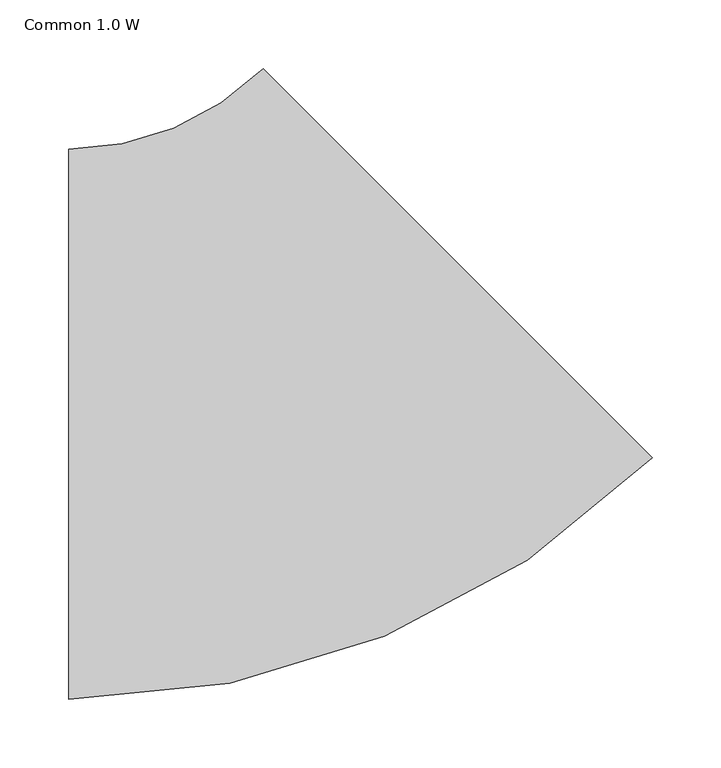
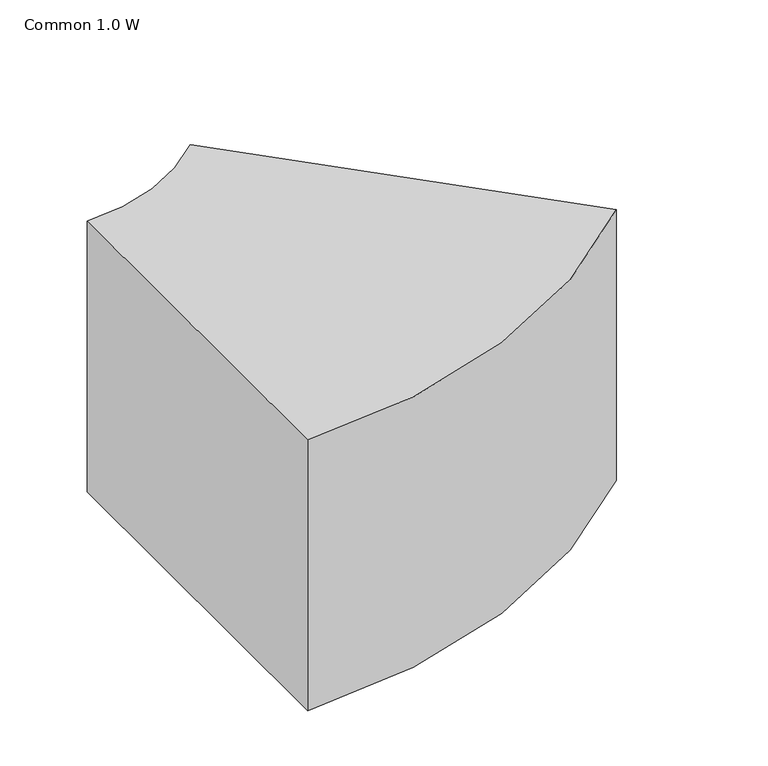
"""IFC4 building model written with IfcOpenShell, lengths in millimetres: duct fitting geometry, 011_角型エルボ - 半径 : Common 1.0 W."""

from ifc_helpers import new_model, si_unit, point, frame, frame_2d, origin, place, context, project, spatial, polyline, circle_curve, trimmed, segment, composite_curve, outline, extrude, source, transform, mapped, element, save


def common_1_0_w_334f4966(model_context):
    return source(origin(), model_context, "Body", "SweptSolid", [
        extrude(outline(composite_curve([segment(trimmed(circle_curve(frame_2d((-165.6854249, 400.0)), 600.0), [point((258.5786438, -24.2640687))], [point((-165.6854249, -200.0))], False, "CARTESIAN"), True, "CONTINUOUS"), segment(polyline([(-165.6854249, -200.0), (-165.6854249, 200.0)]), True, "CONTINUOUS"), segment(trimmed(circle_curve(frame_2d((-165.6854249, 400.0)), 200.0), [point((-165.6854249, 200.0))], [point((-24.2640687, 258.5786438))], True, "CARTESIAN"), True, "CONTINUOUS"), segment(polyline([(-24.2640687, 258.5786438), (258.5786438, -24.2640687)]), True, "CONTINUOUS")], self_intersect=False)), frame((0.0, 0.0, -150.0), z_axis=(0.0, 0.0, 1.0), x_axis=(1.0, 0.0, 0.0)), (0.0, 0.0, 1.0), 300.0),
    ])


if __name__ == "__main__":
    model = new_model("IFC4")
    model_context = context("Model", 3, world=origin())
    ifc_project = project(units=[si_unit("LENGTHUNIT", "METRE", prefix="MILLI")], contexts=[model_context])
    site = spatial("IfcSite", under=ifc_project)
    building = spatial("IfcBuilding", under=site)
    placement = place(None, origin())
    common_1_0_w_shape = common_1_0_w_334f4966(model_context)
    element("IfcDuctFitting", 1, ObjectType="011_角型エルボ - 半径 : Common 1.0 W", at=placement, inside=building, context=model_context, shape_type="MappedRepresentation", body=[
        mapped(common_1_0_w_shape, transform((0.0, 0.0, 0.0), x_axis=(1.0, 0.0, 0.0), y_axis=(0.0, 1.0, 0.0), z_axis=(0.0, 0.0, 1.0))),
    ])
    save(model, "model.ifc")
